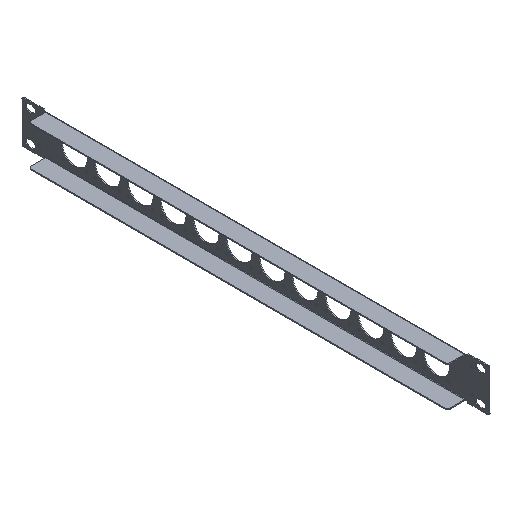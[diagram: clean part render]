
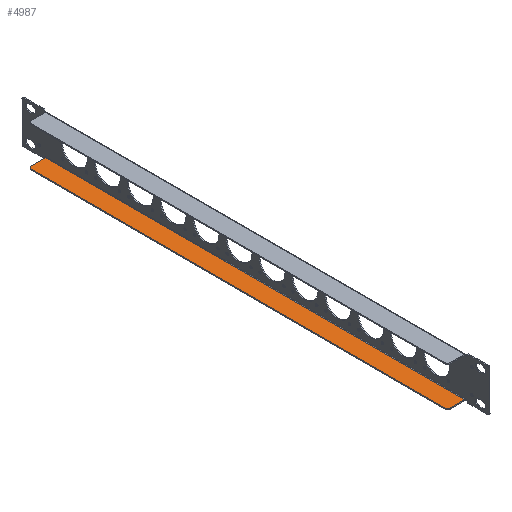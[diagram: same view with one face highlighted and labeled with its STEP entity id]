
A CAD part, isometric view. The second image highlights one B-rep face of the part: STEP entity #4987.
In plain terms, the highlighted planar face has unit normal (0, 0, 1).
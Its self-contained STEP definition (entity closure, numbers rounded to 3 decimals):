
#19 = EDGE_CURVE ( 'NONE', #2929, #2921, #5997, .T. ) ;
#28 = ORIENTED_EDGE ( 'NONE', *, *, #2310, .F. ) ;
#65 = DIRECTION ( 'NONE',  ( -1., 0., 0. ) ) ;
#319 = DIRECTION ( 'NONE',  ( 1., 0., 0. ) ) ;
#373 = CARTESIAN_POINT ( 'NONE',  ( 247.582, -114.898, -41.6 ) ) ;
#451 = VERTEX_POINT ( 'NONE', #3095 ) ;
#528 = CARTESIAN_POINT ( 'NONE',  ( 229.982, 315.302, -41.6 ) ) ;
#731 = EDGE_LOOP ( 'NONE', ( #964, #3121, #2945, #4499, #3914, #28 ) ) ;
#964 = ORIENTED_EDGE ( 'NONE', *, *, #3062, .F. ) ;
#982 = AXIS2_PLACEMENT_3D ( 'NONE', #4160, #1103, #4695 ) ;
#1011 = CARTESIAN_POINT ( 'NONE',  ( 229.982, 318.302, -41.6 ) ) ;
#1103 = DIRECTION ( 'NONE',  ( 0., 0., -1. ) ) ;
#1191 = EDGE_CURVE ( 'NONE', #451, #4559, #6635, .T. ) ;
#1268 = CIRCLE ( 'NONE', #3958, 3. ) ;
#1507 = DIRECTION ( 'NONE',  ( 0., 1., 0. ) ) ;
#1551 = CARTESIAN_POINT ( 'NONE',  ( 229.982, -111.898, -41.6 ) ) ;
#1589 = DIRECTION ( 'NONE',  ( 0., 1., 0. ) ) ;
#2060 = VERTEX_POINT ( 'NONE', #6625 ) ;
#2068 = CARTESIAN_POINT ( 'NONE',  ( 247.712, 318.302, -41.6 ) ) ;
#2124 = EDGE_CURVE ( 'NONE', #5382, #4559, #3065, .T. ) ;
#2310 = EDGE_CURVE ( 'NONE', #2060, #2929, #1268, .T. ) ;
#2619 = EDGE_CURVE ( 'NONE', #2921, #451, #6188, .T. ) ;
#2921 = VERTEX_POINT ( 'NONE', #528 ) ;
#2929 = VERTEX_POINT ( 'NONE', #1551 ) ;
#2945 = ORIENTED_EDGE ( 'NONE', *, *, #1191, .F. ) ;
#3062 = EDGE_CURVE ( 'NONE', #5382, #2060, #4580, .T. ) ;
#3065 = LINE ( 'NONE', #4126, #4404 ) ;
#3095 = CARTESIAN_POINT ( 'NONE',  ( 232.982, 318.302, -41.6 ) ) ;
#3109 = DIRECTION ( 'NONE',  ( 0., 0., -1. ) ) ;
#3121 = ORIENTED_EDGE ( 'NONE', *, *, #2124, .T. ) ;
#3208 = VECTOR ( 'NONE', #5386, 1000. ) ;
#3259 = VECTOR ( 'NONE', #1507, 1000. ) ;
#3330 = DIRECTION ( 'NONE',  ( 1., 0., 0. ) ) ;
#3377 = DIRECTION ( 'NONE',  ( 0., 0., -1. ) ) ;
#3835 = CARTESIAN_POINT ( 'NONE',  ( 247.712, -114.898, -41.6 ) ) ;
#3914 = ORIENTED_EDGE ( 'NONE', *, *, #19, .F. ) ;
#3941 = CARTESIAN_POINT ( 'NONE',  ( 247.582, 318.302, -41.6 ) ) ;
#3958 = AXIS2_PLACEMENT_3D ( 'NONE', #6444, #3377, #319 ) ;
#4126 = CARTESIAN_POINT ( 'NONE',  ( 247.582, -114.898, -41.6 ) ) ;
#4160 = CARTESIAN_POINT ( 'NONE',  ( 232.982, 315.302, -41.6 ) ) ;
#4404 = VECTOR ( 'NONE', #1589, 1000. ) ;
#4499 = ORIENTED_EDGE ( 'NONE', *, *, #2619, .F. ) ;
#4559 = VERTEX_POINT ( 'NONE', #3941 ) ;
#4580 = LINE ( 'NONE', #3835, #3208 ) ;
#4695 = DIRECTION ( 'NONE',  ( 1., 0., 0. ) ) ;
#4987 = ADVANCED_FACE ( 'NONE', ( #5800 ), #5165, .F. ) ;
#5165 = PLANE ( 'NONE',  #6436 ) ;
#5266 = VECTOR ( 'NONE', #3330, 1000. ) ;
#5374 = CARTESIAN_POINT ( 'NONE',  ( 247.712, 318.302, -41.6 ) ) ;
#5382 = VERTEX_POINT ( 'NONE', #373 ) ;
#5386 = DIRECTION ( 'NONE',  ( -1., 0., 0. ) ) ;
#5800 = FACE_OUTER_BOUND ( 'NONE', #731, .T. ) ;
#5997 = LINE ( 'NONE', #1011, #3259 ) ;
#6188 = CIRCLE ( 'NONE', #982, 3. ) ;
#6436 = AXIS2_PLACEMENT_3D ( 'NONE', #2068, #3109, #65 ) ;
#6444 = CARTESIAN_POINT ( 'NONE',  ( 232.982, -111.898, -41.6 ) ) ;
#6625 = CARTESIAN_POINT ( 'NONE',  ( 232.982, -114.898, -41.6 ) ) ;
#6635 = LINE ( 'NONE', #5374, #5266 ) ;
